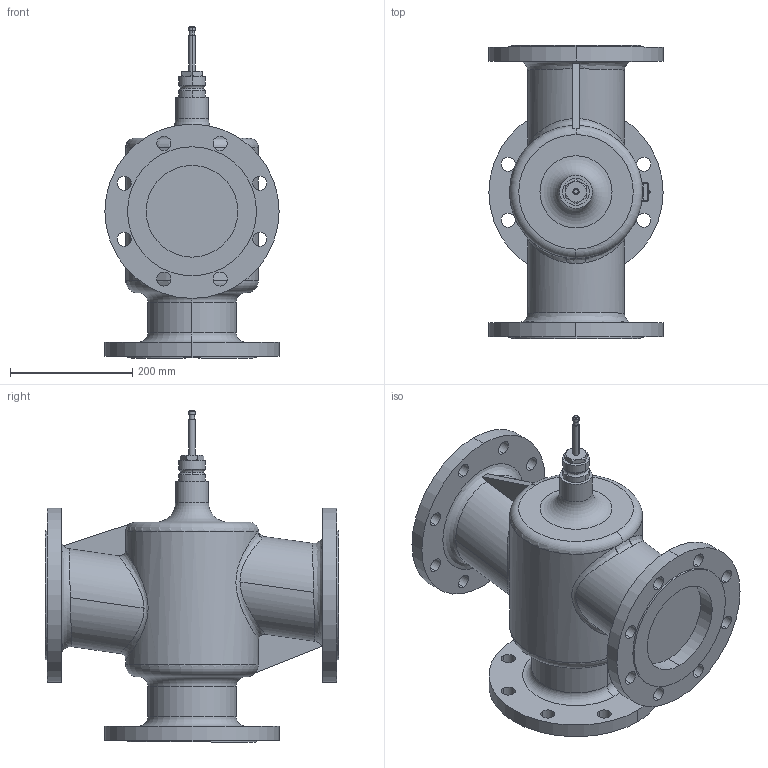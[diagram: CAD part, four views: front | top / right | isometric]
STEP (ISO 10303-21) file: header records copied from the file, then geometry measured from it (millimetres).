
FILE_DESCRIPTION(/* description */ (''),/* implementation_level */ '2;1');
FILE_NAME(/* name */ 'RAS_021827_00.stp',/* time_stamp */ '2012-11-07T08:22:15+01:00',/* author */ (''),/* organization */ (''),/* preprocessor_version */ 'ST-DEVELOPER v11',/* originating_system */ 'SIEMENS UGS NX 6.0',/* authorisation */ '');
FILE_SCHEMA (('AUTOMOTIVE_DESIGN { 1 0 10303 214 1 1 1 1 }'));
Length unit declared in the file: millimetre
Products named in the file (1): RontB30C3t2s
Bounding box: 285 x 480 x 543 mm (x, y, z)
Volume: 18677356.1 mm3; surface area: 804008.9 mm2
Topology: 1 solids, 2 shells, 176 faces, 454 edges, 298 vertices
Faces by surface type: cylinder 99, plane 44, torus 15, bspline 10, cone 6, sphere 2
Full cylindrical faces by diameter (mm): 54 x1
Entity records: 8743 total; most frequent: CARTESIAN_POINT 4357, DIRECTION 931, ORIENTED_EDGE 886, EDGE_CURVE 443, AXIS2_PLACEMENT_3D 395, VERTEX_POINT 293, EDGE_LOOP 246, CIRCLE 226
